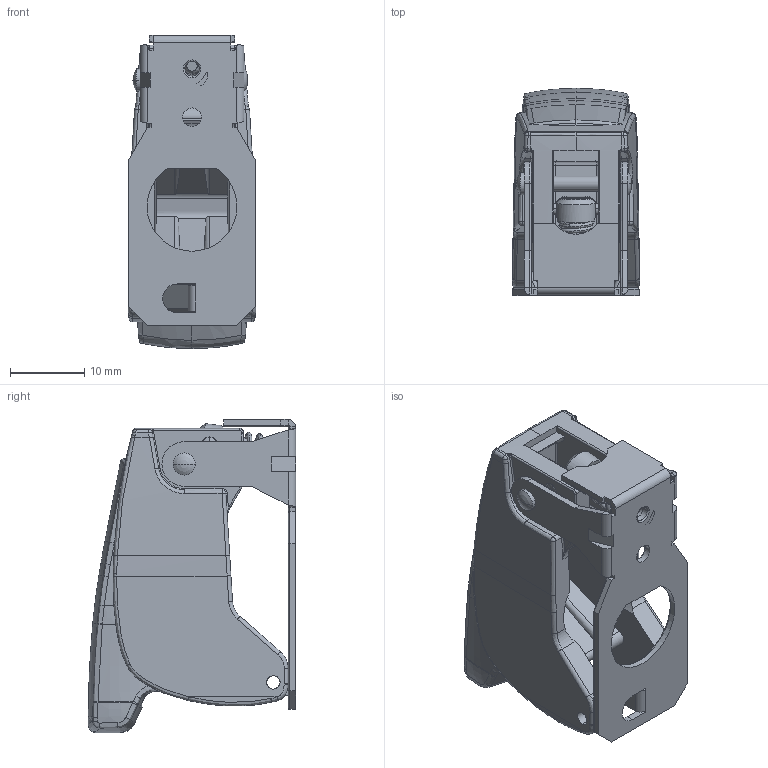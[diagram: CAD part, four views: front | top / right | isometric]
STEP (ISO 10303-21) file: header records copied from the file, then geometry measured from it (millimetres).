
FILE_DESCRIPTION((''),'2;1');
FILE_NAME('MSG33FN_XXX_SW0001','2018-04-03T',('mdamaggio'),(''),'CREO PARAMETRIC BY PTC INC, 2015380','CREO PARAMETRIC BY PTC INC, 2015380','');
FILE_SCHEMA(('CONFIG_CONTROL_DESIGN'));
Length unit declared in the file: millimetre
Products named in the file (1): MSG33FN_XXX_SW0001
Bounding box: 17.16 x 27.9 x 42.15 mm (x, y, z)
Surface area: 6464.4 mm2 (no closed solid volume)
Topology: 0 solids, 10 shells, 652 faces, 1706 edges, 1057 vertices
Faces by surface type: plane 269, cylinder 173, bspline 139, torus 32, cone 14, extrusion 13, sphere 12
Entity records: 29998 total; most frequent: CARTESIAN_POINT 15365, ORIENTED_EDGE 3287, DIRECTION 2552, EDGE_CURVE 1697, VERTEX_POINT 1057, VECTOR 886, LINE 873, AXIS2_PLACEMENT_3D 833
